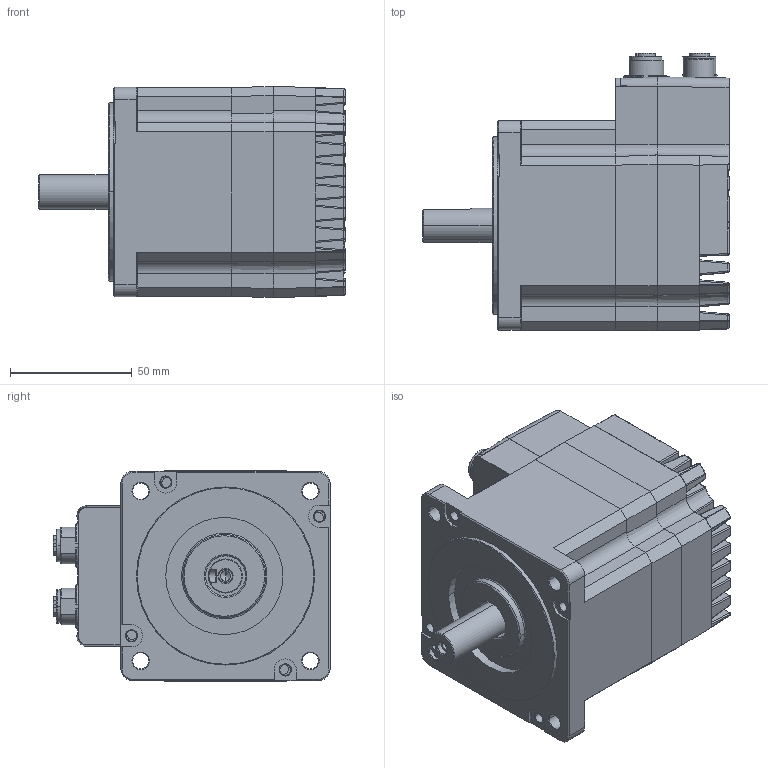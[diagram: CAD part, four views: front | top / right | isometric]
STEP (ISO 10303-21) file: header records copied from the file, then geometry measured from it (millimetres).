
FILE_DESCRIPTION((''),'2;1');
FILE_NAME('STEPPERASSY_ASM','2023-02-20T21:55:20',('Administrator'),(''),'CREO PARAMETRIC BY PTC INC, 2022014','CREO PARAMETRIC BY PTC INC, 2022014','');
FILE_SCHEMA(('AUTOMOTIVE_DESIGN { 1 0 10303 214 1 1 1 1 }'));
Length unit declared in the file: millimetre
Products named in the file (10): M34_CON_R1; M34_CON_R2; MIS34_F_CONNECTOR; M34_S14G; N34PIN1; N34PIN2; N34PIN3; N34PIN4; M34_ASM; STEPPERASSY_ASM
Assembly tree (9 placements, depth 3):
  STEPPERASSY_ASM
    M34_ASM
      M34_CON_R1
      M34_CON_R2
      MIS34_F_CONNECTOR
      M34_S14G
      N34PIN1
      N34PIN2
      N34PIN3
      N34PIN4
Bounding box: 125.5 x 113.9 x 86.41 mm (x, y, z)
Volume: 659974.9 mm3; surface area: 108259.8 mm2
Topology: 8 solids, 9 shells, 1240 faces, 3309 edges, 2042 vertices
Faces by surface type: cylinder 502, plane 484, sphere 109, cone 96, bspline 37, extrusion 8, torus 4
Entity records: 55815 total; most frequent: CARTESIAN_POINT 10497, DIRECTION 6758, ORIENTED_EDGE 6382, PRESENTATION_STYLE_ASSIGNMENT 3431, STYLED_ITEM 3235, CURVE_STYLE 3227, EDGE_CURVE 3191, AXIS2_PLACEMENT_3D 2535
